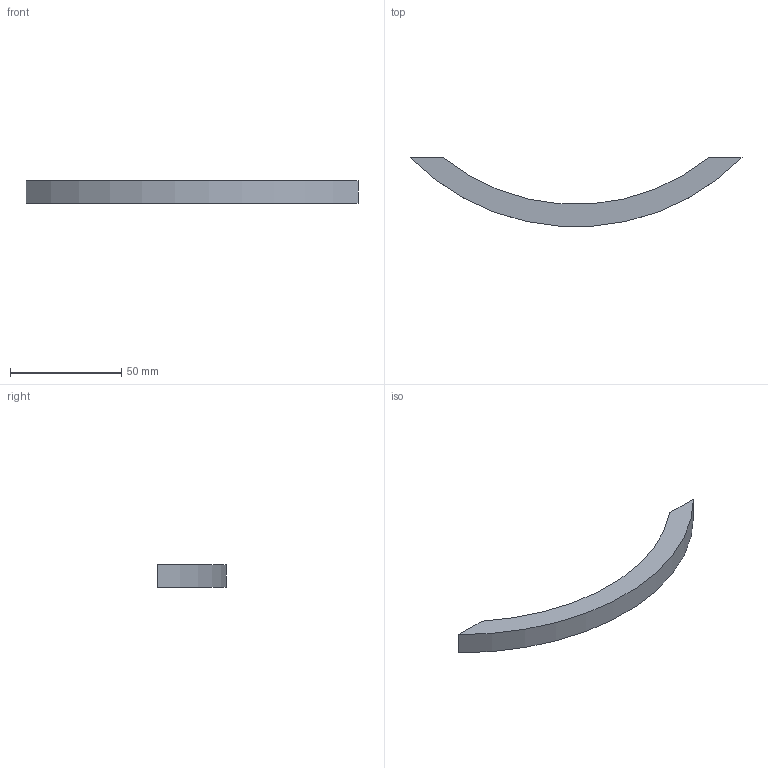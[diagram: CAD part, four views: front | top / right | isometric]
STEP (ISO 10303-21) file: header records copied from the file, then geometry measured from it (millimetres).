
FILE_DESCRIPTION( ( 'STEP AP214' ), '1' );
FILE_NAME( 'C:/Users/swati/Desktop/guarani/9208046/9208046.stp', ' ', ( ' ' ), ( ' ' ), 'PSStep 15.0.47', 'PARTsolutions', ' ' );
FILE_SCHEMA( ( 'AUTOMOTIVE_DESIGN { 1 0 10303 214 1 1 1 1 }' ) );
Length unit declared in the file: millimetre
Products named in the file (2): 95 ; _
Assembly tree (1 placements, depth 2):
  95 
    _
Bounding box: 149 x 30.74 x 10 mm (x, y, z)
Volume: 14652.7 mm3; surface area: 6324.1 mm2
Topology: 1 solids, 1 shells, 10 faces, 18 edges, 12 vertices
Faces by surface type: plane 6, cylinder 4
Full cylindrical faces by diameter (mm): 4 x2
Entity records: 358 total; most frequent: DIRECTION 48, CARTESIAN_POINT 40, ORIENTED_EDGE 32, AXIS2_PLACEMENT_3D 20, EDGE_CURVE 16, EDGE_LOOP 14, FACE_OUTER_BOUND 12, VERTEX_POINT 12
